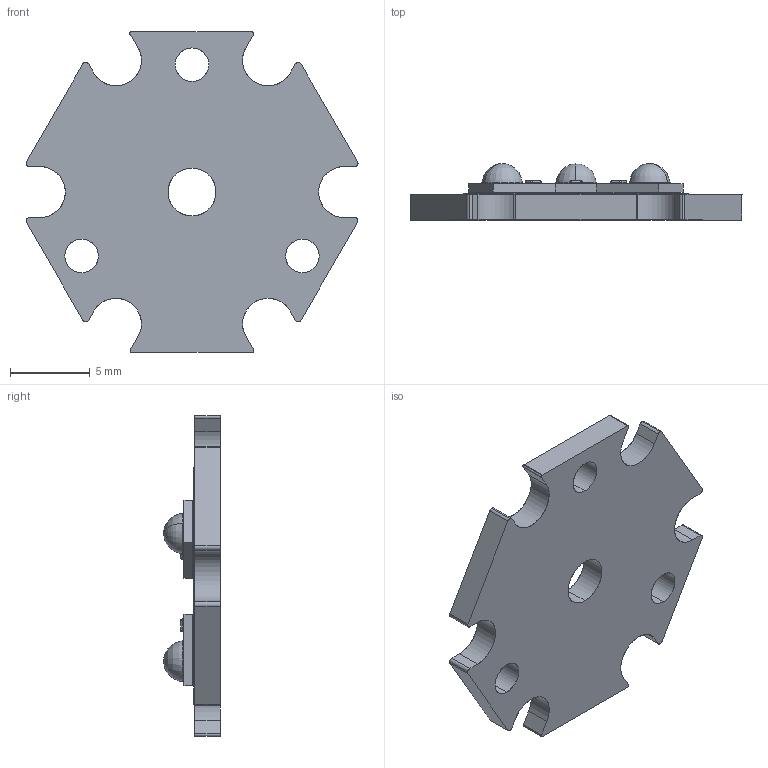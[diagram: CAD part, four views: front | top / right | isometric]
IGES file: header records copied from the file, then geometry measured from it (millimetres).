
Start section: SolidWorks IGES file using analytic representation for surfaces
Global section: file name: E:\Fast Tracks\Non-Production\Quadica\SP Assemblies\SP-03\SP-03.IGS; native system: SolidWorks 2014; preprocessor: SolidWorks 2014; author: MainServer; date: 140727.140814; units: inch
Bounding box: 20.83 x 3.55 x 20.11 mm (x, y, z)
Surface area: 871.9 mm2 (no closed solid volume)
Topology: 0 solids, 0 shells, 559 faces, 4670 edges, 4658 vertices
Faces by surface type: bspline 388, revolution 171
